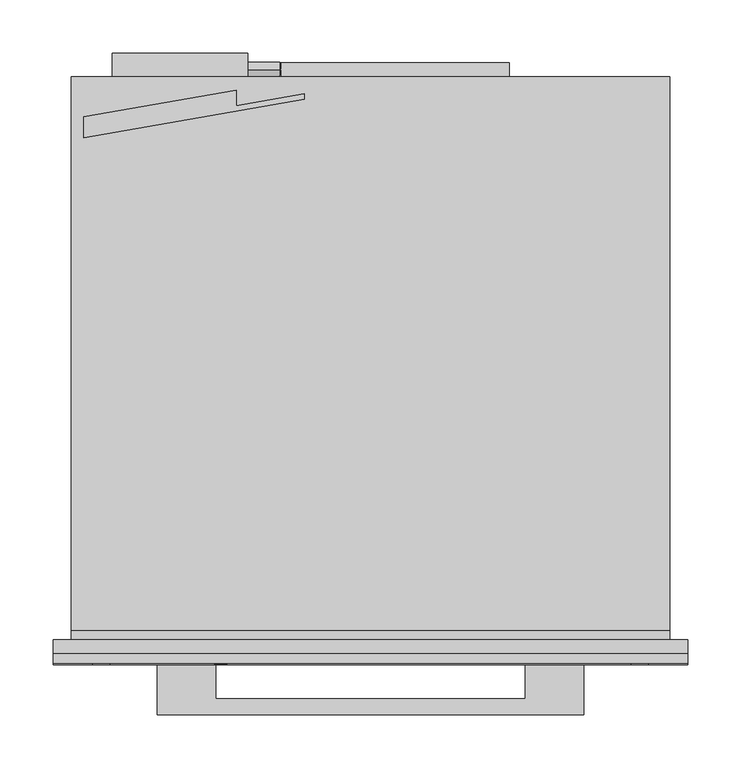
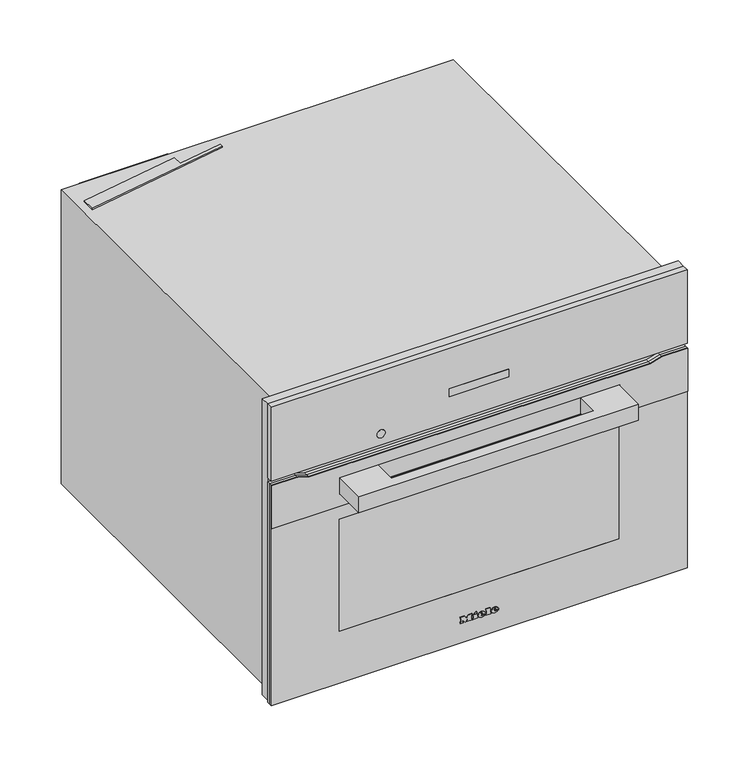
"""IFC4 building model written with IfcOpenShell, lengths in millimetres: proxy geometry, 11804510_USA_H7240BM_EDST-CLST : 22724046_USA_11804510_H7240BM_EDST-CLST."""

from ifc_helpers import new_model, si_unit, point, frame, frame_2d, origin, place, context, project, spatial, polyline, circle_curve, ellipse_curve, trimmed, segment, composite_curve, outline, extrude, faceted_brep, source, transform, mapped, element, save
from ifc_brep_helpers import plane_surface, cylinder_surface, revolved_surface, extruded_surface, advanced_brep


def specialty_equipment_5c6efe2b(model_context):
    return source(origin(), model_context, "Body", "SolidModel", [
        advanced_brep(
        [(21.28, -23.0, 36.133), (21.28, -23.0, 37.042), (27.301, -23.0, 37.042), (16.825, -23.0, 37.042), (19.3, -23.0, 34.0), (27.148, -23.0, 36.133), (24.43, -23.0, 36.133), (22.288, -23.0, 35.125), (21.28, -23.0, 38.194), (21.28, -23.0, 39.175), (22.819, -23.0, 39.175), (22.819, -23.0, 38.194), (21.28, -22.0, 36.133), (22.288, -22.0, 35.125), (24.43, -22.0, 36.133), (27.148, -22.0, 36.133), (19.3, -22.0, 34.0), (16.825, -22.0, 37.042), (27.301, -22.0, 37.042), (21.28, -22.0, 37.042), (21.28, -22.0, 38.194), (22.819, -22.0, 38.194), (22.819, -22.0, 39.175), (21.28, -22.0, 39.175)],
        [
            (0, 1),
            (1, 2),
            (2, 3, ellipse_curve(frame((22.063, -23.0, 37.042), z_axis=(0.0, -1.0, 0.0), x_axis=(-1.0, 0.0, 0.0)), 5.238, 4.329)),
            (3, 4, circle_curve(frame((20.3080491, -23.0, 37.348), z_axis=(0.0, -1.0, 0.0), x_axis=(0.0, 0.0, -1.0)), 3.4964649)),
            (4, 5, circle_curve(frame((21.9581428, -23.0, 39.724), z_axis=(0.0, -1.0, 0.0), x_axis=(0.0, 0.0, -1.0)), 6.3110933)),
            (5, 6),
            (6, 7, circle_curve(frame((22.7279412, -23.0, 36.97), z_axis=(0.0, 1.0, 0.0), x_axis=(0.0, 0.0, -1.0)), 1.896727)),
            (7, 0, circle_curve(frame((22.288, -23.0, 36.133), z_axis=(0.0, 1.0, 0.0), x_axis=(0.0, 0.0, -1.0)), 1.008)),
            (8, 9),
            (9, 10, circle_curve(frame((22.0495, -23.0, 39.175), z_axis=(0.0, 1.0, 0.0), x_axis=(0.0, 0.0, -1.0)), 0.7695)),
            (10, 11),
            (11, 8),
            (12, 13, circle_curve(frame((22.288, -22.0, 36.133), z_axis=(0.0, -1.0, 0.0), x_axis=(0.0, 0.0, -1.0)), 1.008)),
            (13, 14, circle_curve(frame((22.7279412, -22.0, 36.97), z_axis=(0.0, -1.0, 0.0), x_axis=(0.0, 0.0, -1.0)), 1.896727)),
            (14, 15),
            (15, 16, circle_curve(frame((21.9581428, -22.0, 39.724), z_axis=(0.0, 1.0, 0.0), x_axis=(0.0, 0.0, -1.0)), 6.3110933)),
            (16, 17, circle_curve(frame((20.3080491, -22.0, 37.348), z_axis=(0.0, 1.0, 0.0), x_axis=(0.0, 0.0, -1.0)), 3.4964649)),
            (17, 18, ellipse_curve(frame((22.063, -22.0, 37.042), z_axis=(0.0, 1.0, 0.0), x_axis=(-1.0, 0.0, 0.0)), 5.238, 4.329)),
            (18, 19),
            (19, 12),
            (20, 21),
            (21, 22),
            (22, 23, circle_curve(frame((22.0495, -22.0, 39.175), z_axis=(0.0, -1.0, 0.0), x_axis=(0.0, 0.0, -1.0)), 0.7695)),
            (23, 20),
            (0, 12),
            (19, 1),
            (18, 2),
            (5, 15),
            (14, 6),
            (17, 3),
            (13, 7),
            (16, 4),
            (8, 20),
            (23, 9),
            (22, 10),
            (21, 11),
        ],
        [
            plane_surface(frame((21.28, -23.0, 37.042), z_axis=(0.0, -1.0, 0.0), x_axis=(0.0, 0.0, 1.0))),
            plane_surface(frame((21.28, -22.0, 37.042), z_axis=(0.0, 1.0, 0.0), x_axis=(0.0, 0.0, -1.0))),
            plane_surface(frame((21.28, -23.0, 36.133), z_axis=(1.0, 0.0, 0.0), x_axis=(0.0, 1.0, 0.0))),
            plane_surface(frame((21.28, -23.0, 37.042), z_axis=(0.0, 0.0, -1.0), x_axis=(0.0, 1.0, 0.0))),
            plane_surface(frame((27.148, -23.0, 36.133), z_axis=(0.0, 0.0, 1.0), x_axis=(0.0, 1.0, 0.0))),
            extruded_surface(trimmed(ellipse_curve(frame((22.063, -21.0, 37.042), z_axis=(0.0, -1.0, 0.0), x_axis=(-1.0, 0.0, 0.0)), 5.238, 4.329), [point((27.301, -21.0, 37.042))], [point((16.825, -21.0, 37.042))], True, "CARTESIAN"), (0.0, -1.0, 0.0), 1.0),
            revolved_surface(polyline([(22.7279412, -22.0, 35.073273), (22.7279412, -23.0, 35.073273)]), (22.7279412, -22.0, 36.97), (0.0, 1.0, 0.0)),
            revolved_surface(polyline([(22.288, -22.0, 35.125), (22.288, -23.0, 35.125)]), (22.288, -22.0, 36.133), (0.0, 1.0, 0.0)),
            cylinder_surface(frame((20.3080491, -22.0, 37.348), z_axis=(0.0, -1.0, 0.0), x_axis=(0.0, 0.0, -1.0)), 3.4964649),
            cylinder_surface(frame((21.9581428, -22.0, 39.724), z_axis=(0.0, -1.0, 0.0), x_axis=(0.0, 0.0, -1.0)), 6.3110933),
            plane_surface(frame((21.28, -23.0, 38.194), z_axis=(1.0, 0.0, 0.0), x_axis=(0.0, 1.0, 0.0))),
            revolved_surface(polyline([(22.0495, -22.0, 38.405499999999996), (22.0495, -23.0, 38.405499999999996)]), (22.0495, -22.0, 39.175), (0.0, 1.0, 0.0)),
            plane_surface(frame((22.819, -23.0, 39.175), z_axis=(-1.0, 0.0, 0.0), x_axis=(0.0, 1.0, 0.0))),
            plane_surface(frame((22.819, -23.0, 38.194), z_axis=(0.0, 0.0, 1.0), x_axis=(0.0, 1.0, 0.0))),
        ],
        [
            (0, [[1, 2, 3, 4, 5, 6, 7, 8], [9, 10, 11, 12]]),
            (1, [[13, 14, 15, 16, 17, 18, 19, 20], [21, 22, 23, 24]]),
            (2, [[-1, 25, -20, 26]]),
            (3, [[-2, -26, -19, 27]]),
            (4, [[-6, 28, -15, 29]]),
            (5, [[-3, -27, -18, 30]]),
            (6, [[-7, -29, -14, 31]]),
            (7, [[-8, -31, -13, -25]]),
            (8, [[-4, -30, -17, 32]]),
            (9, [[-5, -32, -16, -28]]),
            (10, [[-9, 33, -24, 34]]),
            (11, [[-10, -34, -23, 35]]),
            (12, [[-11, -35, -22, 36]]),
            (13, [[-12, -36, -21, -33]]),
        ],
    ),
        advanced_brep(
        [(2.497, -23.0, 36.133), (2.497, -23.0, 37.042), (8.518, -23.0, 37.042), (-1.958, -23.0, 37.042), (0.517, -23.0, 34.0), (8.365, -23.0, 36.133), (5.647, -23.0, 36.133), (3.505, -23.0, 35.125), (2.497, -23.0, 38.194), (2.497, -23.0, 39.175), (4.036, -23.0, 39.175), (4.036, -23.0, 38.194), (2.497, -22.0, 36.133), (3.505, -22.0, 35.125), (5.647, -22.0, 36.133), (8.365, -22.0, 36.133), (0.517, -22.0, 34.0), (-1.958, -22.0, 37.042), (8.518, -22.0, 37.042), (2.497, -22.0, 37.042), (2.497, -22.0, 38.194), (4.036, -22.0, 38.194), (4.036, -22.0, 39.175), (2.497, -22.0, 39.175)],
        [
            (0, 1),
            (1, 2),
            (2, 3, ellipse_curve(frame((3.28, -23.0, 37.042), z_axis=(0.0, -1.0, 0.0), x_axis=(-1.0, 0.0, 0.0)), 5.238, 4.329)),
            (3, 4, circle_curve(frame((1.5250491, -23.0, 37.348), z_axis=(0.0, -1.0, 0.0), x_axis=(0.0, 0.0, -1.0)), 3.4964649)),
            (4, 5, circle_curve(frame((3.1751428, -23.0, 39.724), z_axis=(0.0, -1.0, 0.0), x_axis=(0.0, 0.0, -1.0)), 6.3110933)),
            (5, 6),
            (6, 7, circle_curve(frame((3.9449412, -23.0, 36.97), z_axis=(0.0, 1.0, 0.0), x_axis=(0.0, 0.0, -1.0)), 1.896727)),
            (7, 0, circle_curve(frame((3.505, -23.0, 36.133), z_axis=(0.0, 1.0, 0.0), x_axis=(0.0, 0.0, -1.0)), 1.008)),
            (8, 9),
            (9, 10, circle_curve(frame((3.2665, -23.0, 39.175), z_axis=(0.0, 1.0, 0.0), x_axis=(0.0, 0.0, -1.0)), 0.7695)),
            (10, 11),
            (11, 8),
            (12, 13, circle_curve(frame((3.505, -22.0, 36.133), z_axis=(0.0, -1.0, 0.0), x_axis=(0.0, 0.0, -1.0)), 1.008)),
            (13, 14, circle_curve(frame((3.9449412, -22.0, 36.97), z_axis=(0.0, -1.0, 0.0), x_axis=(0.0, 0.0, -1.0)), 1.896727)),
            (14, 15),
            (15, 16, circle_curve(frame((3.1751428, -22.0, 39.724), z_axis=(0.0, 1.0, 0.0), x_axis=(0.0, 0.0, -1.0)), 6.3110933)),
            (16, 17, circle_curve(frame((1.5250491, -22.0, 37.348), z_axis=(0.0, 1.0, 0.0), x_axis=(0.0, 0.0, -1.0)), 3.4964649)),
            (17, 18, ellipse_curve(frame((3.28, -22.0, 37.042), z_axis=(0.0, 1.0, 0.0), x_axis=(-1.0, 0.0, 0.0)), 5.238, 4.329)),
            (18, 19),
            (19, 12),
            (20, 21),
            (21, 22),
            (22, 23, circle_curve(frame((3.2665, -22.0, 39.175), z_axis=(0.0, -1.0, 0.0), x_axis=(0.0, 0.0, -1.0)), 0.7695)),
            (23, 20),
            (0, 12),
            (19, 1),
            (18, 2),
            (5, 15),
            (14, 6),
            (17, 3),
            (13, 7),
            (16, 4),
            (8, 20),
            (23, 9),
            (22, 10),
            (21, 11),
        ],
        [
            plane_surface(frame((2.497, -23.0, 37.042), z_axis=(0.0, -1.0, 0.0), x_axis=(0.0, 0.0, 1.0))),
            plane_surface(frame((2.497, -22.0, 37.042), z_axis=(0.0, 1.0, 0.0), x_axis=(0.0, 0.0, -1.0))),
            plane_surface(frame((2.497, -23.0, 36.133), z_axis=(1.0, 0.0, 0.0), x_axis=(0.0, 1.0, 0.0))),
            plane_surface(frame((2.497, -23.0, 37.042), z_axis=(0.0, 0.0, -1.0), x_axis=(0.0, 1.0, 0.0))),
            plane_surface(frame((8.365, -23.0, 36.133), z_axis=(0.0, 0.0, 1.0), x_axis=(0.0, 1.0, 0.0))),
            extruded_surface(trimmed(ellipse_curve(frame((3.28, -21.0, 37.042), z_axis=(0.0, -1.0, 0.0), x_axis=(-1.0, 0.0, 0.0)), 5.238, 4.329), [point((8.518, -21.0, 37.042))], [point((-1.958, -21.0, 37.042))], True, "CARTESIAN"), (0.0, -1.0, 0.0), 1.0),
            revolved_surface(polyline([(3.9449412, -22.0, 35.073273), (3.9449412, -23.0, 35.073273)]), (3.9449412, -22.0, 36.97), (0.0, 1.0, 0.0)),
            revolved_surface(polyline([(3.505, -22.0, 35.125), (3.505, -23.0, 35.125)]), (3.505, -22.0, 36.133), (0.0, 1.0, 0.0)),
            cylinder_surface(frame((1.5250491, -22.0, 37.348), z_axis=(0.0, -1.0, 0.0), x_axis=(0.0, 0.0, -1.0)), 3.4964649),
            cylinder_surface(frame((3.1751428, -22.0, 39.724), z_axis=(0.0, -1.0, 0.0), x_axis=(0.0, 0.0, -1.0)), 6.3110933),
            plane_surface(frame((2.497, -23.0, 38.194), z_axis=(1.0, 0.0, 0.0), x_axis=(0.0, 1.0, 0.0))),
            revolved_surface(polyline([(3.2665, -22.0, 38.405499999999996), (3.2665, -23.0, 38.405499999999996)]), (3.2665, -22.0, 39.175), (0.0, 1.0, 0.0)),
            plane_surface(frame((4.036, -23.0, 39.175), z_axis=(-1.0, 0.0, 0.0), x_axis=(0.0, 1.0, 0.0))),
            plane_surface(frame((4.036, -23.0, 38.194), z_axis=(0.0, 0.0, 1.0), x_axis=(0.0, 1.0, 0.0))),
        ],
        [
            (0, [[1, 2, 3, 4, 5, 6, 7, 8], [9, 10, 11, 12]]),
            (1, [[13, 14, 15, 16, 17, 18, 19, 20], [21, 22, 23, 24]]),
            (2, [[-1, 25, -20, 26]]),
            (3, [[-2, -26, -19, 27]]),
            (4, [[-6, 28, -15, 29]]),
            (5, [[-3, -27, -18, 30]]),
            (6, [[-7, -29, -14, 31]]),
            (7, [[-8, -31, -13, -25]]),
            (8, [[-4, -30, -17, 32]]),
            (9, [[-5, -32, -16, -28]]),
            (10, [[-9, 33, -24, 34]]),
            (11, [[-10, -34, -23, 35]]),
            (12, [[-11, -35, -22, 36]]),
            (13, [[-12, -36, -21, -33]]),
        ],
    ),
        extrude(outline(polyline([(42.469, -7.34), (41.011, -6.656), (42.433, -3.605), (43.891, -4.28), (42.469, -7.34)])), frame((0.0, -23.0, 0.0), z_axis=(0.0, 1.0, 0.0), x_axis=(0.0, 0.0, 1.0)), (0.0, 0.0, 1.0), 1.0),
        extrude(outline(polyline([(40.813, -9.563), (39.202, -9.563), (39.202, -8.492), (35.512, -8.492), (35.512, -9.563), (34.0, -9.563), (34.0, -2.462), (35.512, -2.462), (35.512, -3.506), (40.813, -3.506), (40.813, -9.563)])), frame((0.0, -23.0, 0.0), z_axis=(0.0, 1.0, 0.0), x_axis=(0.0, 0.0, 1.0)), (0.0, 0.0, 1.0), 1.0),
        extrude(outline(polyline([(41.533, 9.022), (41.533, 10.102), (35.512, 10.102), (35.512, 9.022), (34.0, 9.022), (34.0, 16.321), (35.512, 16.321), (35.512, 15.214), (43.0, 15.214), (43.0, 9.022), (41.533, 9.022)])), frame((0.0, -23.0, 0.0), z_axis=(0.0, 1.0, 0.0), x_axis=(0.0, 0.0, 1.0)), (0.0, 0.0, 1.0), 1.0),
        extrude(outline(polyline([(41.533, -27.5), (41.533, -26.411), (35.512, -26.411), (35.512, -27.5), (34.0, -27.5), (34.0, -23.54), (35.512, -23.54), (35.512, -24.62), (39.3341247, -24.62), (34.0, -20.597), (39.4402223, -16.556), (35.512, -16.556), (35.512, -17.663), (34.0, -17.663), (34.0, -10.481), (35.512, -10.481), (35.512, -11.624), (41.533, -11.624), (41.533, -10.481), (43.0, -10.481), (43.0, -15.962), (39.625, -18.59), (43.0, -21.227), (43.0, -27.5), (41.533, -27.5)])), frame((0.0, -23.0, 0.0), z_axis=(0.0, 1.0, 0.0), x_axis=(0.0, 0.0, 1.0)), (0.0, 0.0, 1.0), 1.0),
        extrude(outline(polyline([(-200.0, -70.3), (-200.0, -22.0), (-145.0, -22.0), (-145.0, -55.3), (145.0, -55.3), (145.0, -22.0), (200.0, -22.0), (200.0, -70.3), (-200.0, -70.3)])), frame((0.0, 0.0, 291.0), z_axis=(0.0, 0.0, 1.0), x_axis=(1.0, 0.0, 0.0)), (0.0, 0.0, 1.0), 24.0),
        extrude(outline(polyline([(337.0, -297.5), (4.0, -297.5), (4.0, 297.5), (337.0, 297.5), (337.0, 260.3542631), (332.0, 244.0), (332.0, -244.0), (337.0, -260.3542631), (337.0, -297.5)]), holes=[polyline([(252.0, 200.0), (82.0, 200.0), (82.0, -200.0), (252.0, -200.0), (252.0, 200.0)])]), frame((0.0, -22.0, 0.0), z_axis=(0.0, 1.0, 0.0), x_axis=(0.0, 0.0, 1.0)), (0.0, 0.0, 1.0), 4.0),
        extrude(outline(polyline([(337.0, -297.5), (272.0, -297.5), (272.0, 297.5), (337.0, 297.5), (337.0, 260.3542631), (332.0, 244.0), (332.0, -244.0), (337.0, -260.3542631), (337.0, -297.5)]), holes=[polyline([(315.5, -200.5), (315.5, 200.5), (290.5, 200.5), (290.5, -200.5), (315.5, -200.5)])]), frame((0.0, -23.3, 0.0), z_axis=(0.0, 1.0, 0.0), x_axis=(0.0, 0.0, 1.0)), (0.0, 0.0, 1.0), 1.3),
        extrude(outline(polyline([(337.0, -297.5), (4.0, -297.5), (4.0, 297.5), (337.0, 297.5), (337.0, 260.3542631), (332.0, 244.0), (332.0, -244.0), (337.0, -260.3542631), (337.0, -297.5)])), frame((0.0, -18.0, 0.0), z_axis=(0.0, 1.0, 0.0), x_axis=(0.0, 0.0, 1.0)), (0.0, 0.0, 1.0), 5.0),
        extrude(outline(polyline([(-200.0, -18.0), (200.0, -18.0), (200.0, -22.0), (-200.0, -22.0), (-200.0, -18.0)])), frame((0.0, 0.0, 82.0), z_axis=(0.0, 0.0, 1.0), x_axis=(1.0, 0.0, 0.0)), (0.0, 0.0, 1.0), 170.0),
        extrude(outline(polyline([(-42.5, -21.0), (42.5, -21.0), (42.5, -22.0), (-42.5, -22.0), (-42.5, -21.0)])), frame((0.0, 0.0, 382.0), z_axis=(0.0, 0.0, 1.0), x_axis=(1.0, 0.0, 0.0)), (0.0, 0.0, 1.0), 12.0),
        faceted_brep([(297.5, -22.0, 455.0), (-297.5, -22.0, 455.0), (-297.5, -22.0, 343.5), (297.5, -22.0, 343.5), (42.5, -22.0, 394.0), (42.5, -22.0, 382.0), (-42.5, -22.0, 382.0), (-42.5, -22.0, 394.0), (297.5, -13.0, 455.0), (297.5, -13.0, 343.5), (-297.5, -13.0, 343.5), (-297.5, -13.0, 455.0), (42.5, -21.0, 394.0), (-42.5, -21.0, 394.0), (-42.5, -21.0, 382.0), (42.5, -21.0, 382.0)], [[[0, 1, 2, 3], [4, 5, 6, 7]], [[8, 9, 10, 11]], [[1, 0, 8, 11]], [[2, 1, 11, 10]], [[3, 2, 10, 9]], [[0, 3, 9, 8]], [[12, 13, 14, 15]], [[12, 15, 5, 4]], [[15, 14, 6, 5]], [[14, 13, 7, 6]], [[13, 12, 4, 7]]]),
        extrude(outline(composite_curve([segment(trimmed(circle_curve(frame_2d((360.5, -140.5745637)), 6.0), [point((360.5, -146.5745637))], [point((360.5, -134.5745637))], False, "CARTESIAN"), True, "CONTINUOUS"), segment(trimmed(circle_curve(frame_2d((360.5, -140.5745637)), 6.0), [point((360.5, -134.5745637))], [point((360.5, -146.5745637))], False, "CARTESIAN"), True, "CONTINUOUS")], self_intersect=False)), frame((0.0, -22.5, 0.0), z_axis=(0.0, 1.0, 0.0), x_axis=(0.0, 0.0, 1.0)), (0.0, 0.0, 1.0), 1.0),
        extrude(outline(polyline([(-269.0, 490.2851942), (-126.0, 515.1547594), (-126.0, 500.9446163), (-62.0, 512.0750511), (-62.0, 507.0), (-269.0, 471.0), (-269.0, 490.2851942)])), frame((0.0, 0.0, 445.0), z_axis=(0.0, 0.0, 1.0), x_axis=(1.0, 0.0, 0.0)), (0.0, 0.0, 1.0), 2.0),
        extrude(outline(polyline([(528.134837, 358.3256163), (533.9911721, 358.3256163), (533.9911721, 357.3256163), (529.134837, 357.3256163), (529.134837, 353.8256163), (532.0849866, 353.8256163), (532.0849866, 352.8256163), (529.134837, 352.8256163), (529.134837, 349.3256163), (533.9911721, 349.3256163), (533.9911721, 348.3256163), (528.134837, 348.3256163), (528.134837, 358.3256163)])), frame((-85.0, 0.0, 0.0), z_axis=(1.0, 0.0, 0.0), x_axis=(0.0, 1.0, 0.0)), (0.0, 0.0, 1.0), 1.0),
        extrude(outline(polyline([(535.4911721, 348.3256163), (535.4911721, 358.3256163), (536.5959622, 358.3256163), (536.5959622, 349.3256163), (540.4911721, 349.3256163), (540.4911721, 348.3256163), (535.4911721, 348.3256163)])), frame((-85.0, 0.0, 0.0), z_axis=(1.0, 0.0, 0.0), x_axis=(0.0, 1.0, 0.0)), (0.0, 0.0, 1.0), 1.0),
        extrude(outline(composite_curve([segment(trimmed(circle_curve(frame_2d((534.0, 353.0)), 7.5), [point((534.0, 345.5))], [point((534.0, 360.5))], False, "CARTESIAN"), True, "CONTINUOUS"), segment(trimmed(circle_curve(frame_2d((534.0, 353.0)), 7.5), [point((534.0, 360.5))], [point((534.0, 345.5))], False, "CARTESIAN"), True, "CONTINUOUS")], self_intersect=False)), frame((-115.0, 0.0, 0.0), z_axis=(1.0, 0.0, 0.0), x_axis=(0.0, 1.0, 0.0)), (0.0, 0.0, 1.0), 30.0),
        extrude(outline(polyline([(-115.0, 528.0), (-242.0, 528.0), (-242.0, 550.0), (-115.0, 550.0), (-115.0, 528.0)])), frame((0.0, 0.0, 325.0), z_axis=(0.0, 0.0, 1.0), x_axis=(1.0, 0.0, 0.0)), (0.0, 0.0, 1.0), 103.0),
        faceted_brep([(272.5, 17.0, 344.0), (-272.5, 17.0, 344.0), (-272.5, 17.0, 7.0), (272.5, 17.0, 7.0), (-230.0, 17.0, 270.0), (230.0, 17.0, 270.0), (230.0, 17.0, 60.0), (-230.0, 17.0, 60.0), (272.5, 0.0, 344.0), (-272.5, 0.0, 344.0), (-272.5, 0.0, 7.0), (272.5, 0.0, 7.0), (280.5, 0.0, 0.0), (280.5, 528.0, 0.0), (280.5, 528.0, 445.0), (280.5, 9.0, 445.0), (280.5, 9.0, 440.0), (280.5, 0.0, 440.0), (-280.5, 9.0, 445.0), (-280.5, 528.0, 445.0), (-280.5, 528.0, 0.0), (-280.5, 0.0, 0.0), (-280.5, 0.0, 440.0), (-280.5, 9.0, 440.0), (230.0, 412.0, 270.0), (-230.0, 412.0, 270.0), (-230.0, 412.0, 60.0), (230.0, 412.0, 60.0)], [[[0, 1, 2, 3], [4, 5, 6, 7]], [[1, 0, 8, 9]], [[2, 1, 9, 10]], [[0, 3, 11, 8]], [[12, 13, 14, 15, 16, 17]], [[18, 19, 20, 21, 22, 23]], [[13, 12, 21, 20]], [[14, 13, 20, 19]], [[15, 14, 19, 18]], [[21, 12, 17, 22], [9, 8, 11, 10]], [[24, 25, 26, 27]], [[25, 24, 5, 4]], [[26, 25, 4, 7]], [[27, 26, 7, 6]], [[24, 27, 6, 5]], [[3, 2, 10, 11]], [[16, 23, 22, 17]], [[23, 16, 15, 18]]]),
        extrude(outline(polyline([(130.0, 528.0), (-130.0, 528.0), (-130.0, 541.0), (130.0, 541.0), (130.0, 528.0)])), frame((0.0, 0.0, 36.0), z_axis=(0.0, 0.0, 1.0), x_axis=(1.0, 0.0, 0.0)), (0.0, 0.0, 1.0), 260.0),
        extrude(outline(polyline([(7.0, 297.5), (455.0, 297.5), (455.0, -297.5), (7.0, -297.5), (7.0, -272.5), (344.0, -272.5), (344.0, 272.5), (7.0, 272.5), (7.0, 297.5)])), frame((0.0, -13.0, 0.0), z_axis=(0.0, 1.0, 0.0), x_axis=(0.0, 0.0, 1.0)), (0.0, 0.0, 1.0), 13.0),
    ])


if __name__ == "__main__":
    model = new_model("IFC4")
    model_context = context("Model", 3, world=origin())
    ifc_project = project(units=[si_unit("LENGTHUNIT", "METRE", prefix="MILLI")], contexts=[model_context])
    site = spatial("IfcSite", under=ifc_project)
    building = spatial("IfcBuilding", under=site)
    placement = place(None, origin())
    specialty_equipment_shape = specialty_equipment_5c6efe2b(model_context)
    element("IfcBuildingElementProxy", 1, Name="11804510_USA_H7240BM_EDST-CLST : 22724046_USA_11804510_H7240BM_EDST-CLST", ObjectType="11804510_USA_H7240BM_EDST-CLST : 22724046_USA_11804510_H7240BM_EDST-CLST", at=placement, inside=building, context=model_context, shape_type="MappedRepresentation", body=[
        mapped(specialty_equipment_shape, transform((0.0, 0.0, 0.0), x_axis=(1.0, 0.0, 0.0), y_axis=(0.0, 1.0, 0.0), z_axis=(0.0, 0.0, 1.0))),
    ])
    save(model, "model.ifc")
